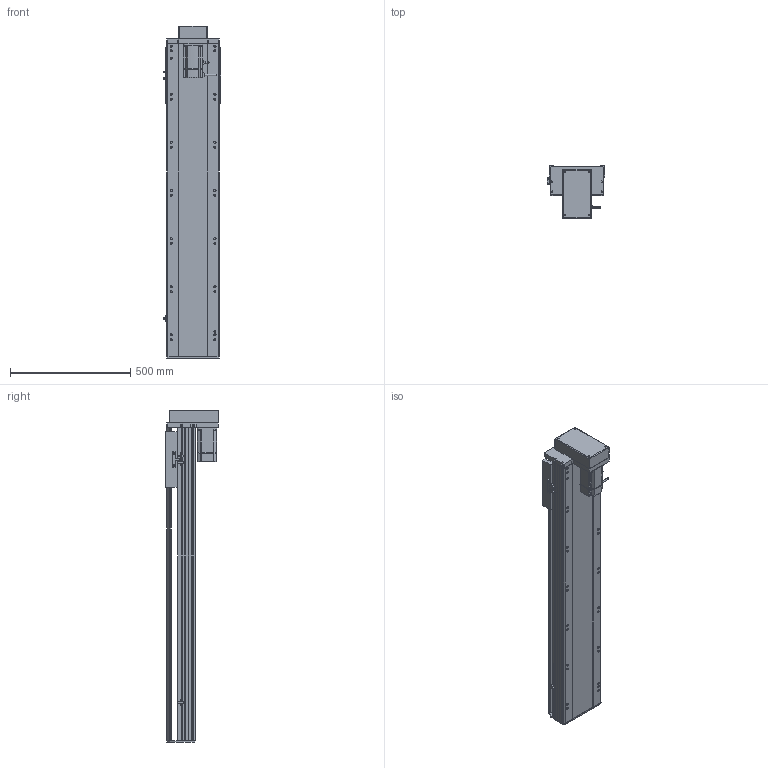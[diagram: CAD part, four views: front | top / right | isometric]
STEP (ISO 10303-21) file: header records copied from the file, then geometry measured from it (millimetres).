
FILE_DESCRIPTION (( 'STEP AP214' ), '1' );
FILE_NAME ('RTH22-XX-1000-M-M75-C4.STEP', '2025-10-24T11:11:04', ( 'Microsoft' ), ( 'Microsoft' ), 'SwSTEP 2.0', 'SolidWorks 2018', '' );
FILE_SCHEMA (( 'AUTOMOTIVE_DESIGN' ));
Length unit declared in the file: millimetre
Products named in the file (10): N_OMRON EE-SX672 传感器^RTH22-XX-XX-M-M75-C4; N_RTH22-M-018裔赽^RTH22-XX-XX-M-M75-C4; N_RTH22-M-008-P75萇儂啣^RTH22-XX-XX-M-M75-C4; N_RTH22-GY-013外置感应片^RTH22-XX-XX-M-M75-C4; N_RTH22-GY-001耜裔^RTH22-XX-XX-M-M75-C4; N_RTH22-L-004-SFS25賑釱^RTH22-XX-XX-M-M75-C4; N_RTH22-L-011菁釱^RTH22-XX-XX-M-M75-C4; RTH22-XX-1000-M-M75-C4; N_750W萇儂^RTH22-XX-XX-M-M75-C4; N_RTH22-M-007奻裔^RTH22-XX-XX-M-M75-C4
Assembly tree (11 placements, depth 2):
  RTH22-XX-1000-M-M75-C4
    N_RTH22-L-011菁釱^RTH22-XX-XX-M-M75-C4
    N_RTH22-GY-001耜裔^RTH22-XX-XX-M-M75-C4
    N_750W萇儂^RTH22-XX-XX-M-M75-C4
    N_RTH22-M-008-P75萇儂啣^RTH22-XX-XX-M-M75-C4
    N_RTH22-M-007奻裔^RTH22-XX-XX-M-M75-C4
    N_RTH22-M-018裔赽^RTH22-XX-XX-M-M75-C4
    N_OMRON EE-SX672 传感器^RTH22-XX-XX-M-M75-C4  x3
    N_RTH22-GY-013外置感应片^RTH22-XX-XX-M-M75-C4
    N_RTH22-L-004-SFS25賑釱^RTH22-XX-XX-M-M75-C4
Bounding box: 238.5 x 218.5 x 1379.7 mm (x, y, z)
Volume: 18840777.8 mm3; surface area: 2065095.3 mm2
Topology: 11 solids, 11 shells, 1623 faces, 4430 edges, 2855 vertices
Faces by surface type: plane 807, cylinder 475, bspline 279, cone 62
Entity records: 40999 total; most frequent: CARTESIAN_POINT 12364, ORIENTED_EDGE 5828, DIRECTION 5508, EDGE_CURVE 2914, VERTEX_POINT 1891, AXIS2_PLACEMENT_3D 1851, LINE 1806, VECTOR 1806
